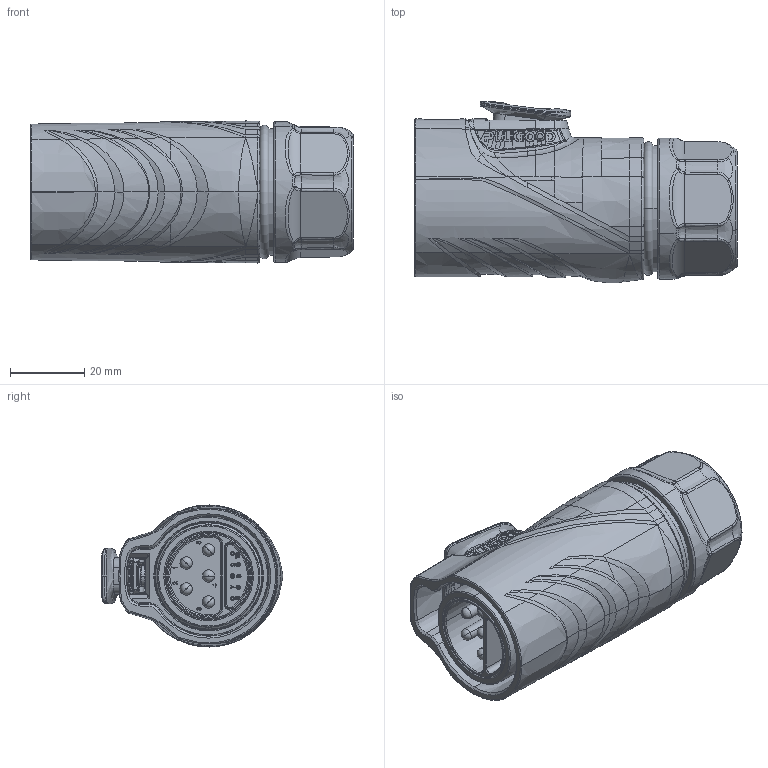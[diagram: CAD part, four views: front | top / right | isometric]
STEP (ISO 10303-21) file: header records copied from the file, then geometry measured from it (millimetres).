
FILE_DESCRIPTION (( 'STEP AP203' ), '1' );
FILE_NAME ('PLG28 5+5郋眻芛脣芛淏蚾.STEP', '2026-03-17T09:35:37', ( '' ), ( '' ), 'SwSTEP 2.0', 'SolidWorks 2024', '' );
FILE_SCHEMA (( 'CONFIG_CONTROL_DESIGN' ));
Products named in the file (1): PLG28 5+5芯直头插头正装
Bounding box: 87 x 49.02 x 38.3 mm (x, y, z)
Volume: 86555.7 mm3; surface area: 30256.3 mm2
Topology: 2 solids, 6 shells, 1720 faces, 4463 edges, 2810 vertices
Faces by surface type: bspline 700, plane 410, cylinder 358, torus 155, cone 77, sphere 20
Entity records: 145870 total; most frequent: CARTESIAN_POINT 109895, ORIENTED_EDGE 8902, DIRECTION 5302, EDGE_CURVE 4451, VERTEX_POINT 2810, B_SPLINE_CURVE_WITH_KNOTS 2017, AXIS2_PLACEMENT_3D 2013, EDGE_LOOP 1805
